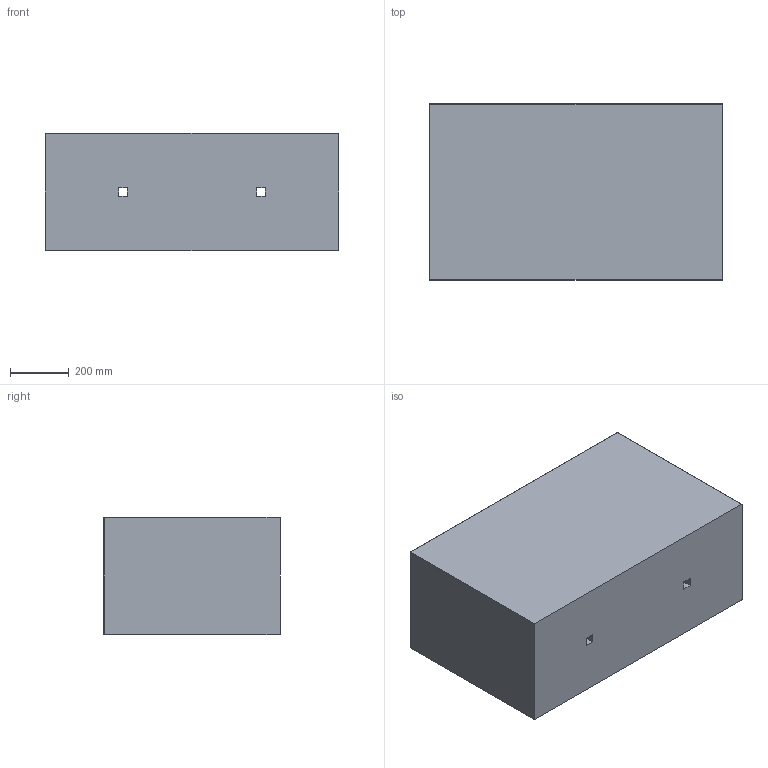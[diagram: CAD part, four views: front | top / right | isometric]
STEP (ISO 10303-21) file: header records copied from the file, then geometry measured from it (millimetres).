
FILE_DESCRIPTION(/* description */ (''),/* implementation_level */ '2;1');
FILE_NAME(/* name */ 'C:\Mac\Home\Desktop\btnv\inventor\basso1004060\donica betonowa Basso 100x40x60cm.stp',/* time_stamp */ '2025-11-10T21:34:01+01:00',/* author */ ('dwasik'),/* organization */ (''),/* preprocessor_version */ 'ST-DEVELOPER v15.6',/* originating_system */ 'Autodesk Inventor 2015',/* authorisation */ '');
FILE_SCHEMA (('AUTOMOTIVE_DESIGN { 1 0 10303 214 3 1 1 }'));
Length unit declared in the file: millimetre
Products named in the file (1): Part1
Bounding box: 1000 x 600 x 400 mm (x, y, z)
Volume: 57772884.7 mm3; surface area: 3940566.7 mm2
Topology: 1 solids, 1 shells, 31 faces, 72 edges, 44 vertices
Faces by surface type: plane 19, cylinder 8, sphere 4
Entity records: 898 total; most frequent: DIRECTION 152, CARTESIAN_POINT 148, ORIENTED_EDGE 144, EDGE_CURVE 72, LINE 56, VECTOR 56, AXIS2_PLACEMENT_3D 48, VERTEX_POINT 44
